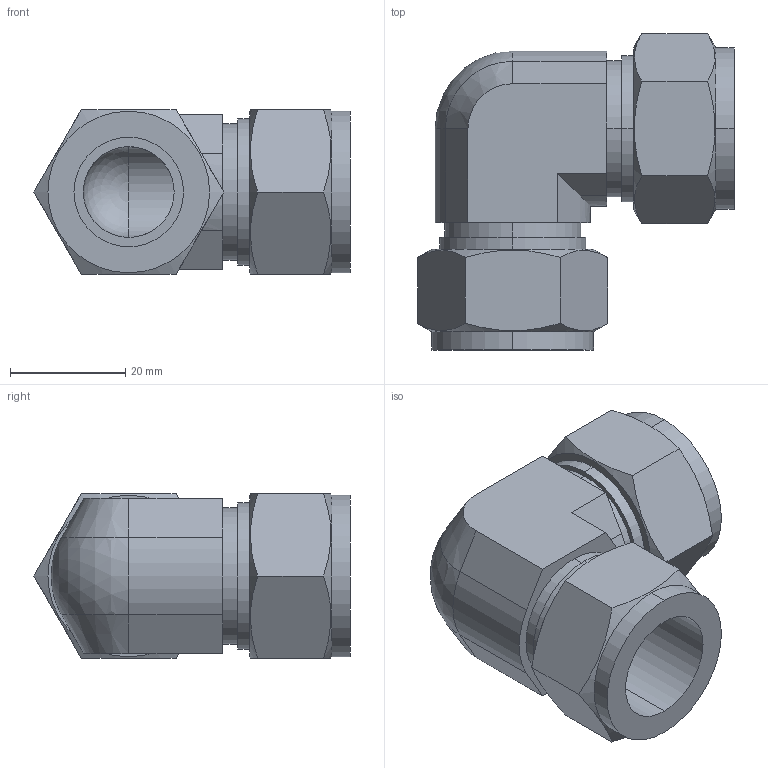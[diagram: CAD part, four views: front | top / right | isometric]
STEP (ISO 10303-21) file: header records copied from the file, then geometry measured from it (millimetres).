
FILE_DESCRIPTION (( 'STEP AP203' ), '1' );
FILE_NAME ('DLA12 SS.STEP', '2009-10-26T06:02:31', ( ' ' ), ( '' ), 'SwSTEP 2.0', 'SolidWorks 2008', '' );
FILE_SCHEMA (( 'CONFIG_CONTROL_DESIGN' ));
Length unit declared in the file: millimetre
Products named in the file (1): DLA12 SS
Bounding box: 55 x 55 x 28.58 mm (x, y, z)
Volume: 28324.2 mm3; surface area: 12901 mm2
Topology: 1 solids, 1 shells, 68 faces, 164 edges, 104 vertices
Faces by surface type: plane 32, cylinder 24, cone 10, sphere 2
Entity records: 2233 total; most frequent: CARTESIAN_POINT 609, ORIENTED_EDGE 320, DIRECTION 316, EDGE_CURVE 160, AXIS2_PLACEMENT_3D 121, VERTEX_POINT 102, EDGE_LOOP 78, VECTOR 74
